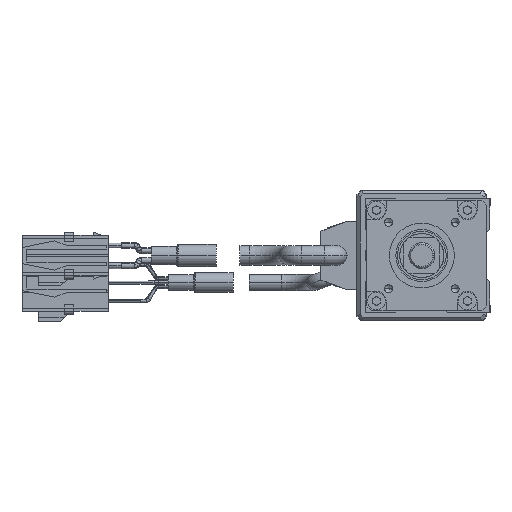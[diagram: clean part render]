
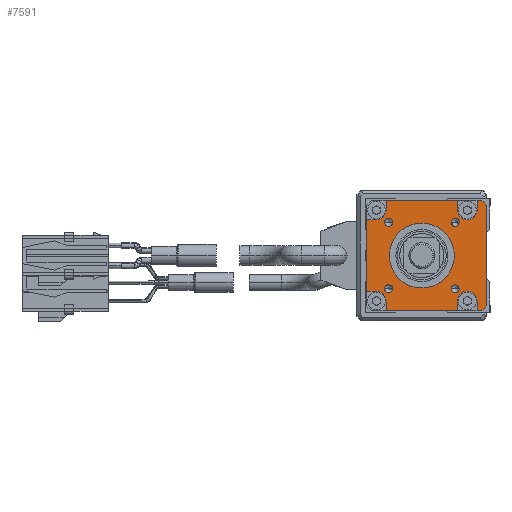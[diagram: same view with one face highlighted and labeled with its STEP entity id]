
A CAD part, left-side view. The second image highlights one B-rep face of the part: STEP entity #7591.
In plain terms, the highlighted planar face has unit normal (-1, 0, 0).
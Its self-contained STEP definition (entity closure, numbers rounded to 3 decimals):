
#1363=DIRECTION('',(0.,1.,0.));
#1364=VECTOR('',#1363,22.);
#1365=CARTESIAN_POINT('',(-227.5,10.,-17.));
#1366=LINE('',#1365,#1364);
#1371=DIRECTION('',(0.,1.,0.));
#1372=VECTOR('',#1371,1.5);
#1373=CARTESIAN_POINT('',(-227.5,2.5,-17.));
#1374=LINE('',#1373,#1372);
#1395=DIRECTION('',(0.,0.,1.));
#1396=VECTOR('',#1395,22.);
#1397=CARTESIAN_POINT('',(-227.5,38.,-11.));
#1398=LINE('',#1397,#1396);
#1419=DIRECTION('',(0.,-1.,0.));
#1420=VECTOR('',#1419,1.5);
#1421=CARTESIAN_POINT('',(-227.5,4.,17.));
#1422=LINE('',#1421,#1420);
#1423=DIRECTION('',(0.,-1.,0.));
#1424=VECTOR('',#1423,22.);
#1425=CARTESIAN_POINT('',(-227.5,32.,17.));
#1426=LINE('',#1425,#1424);
#1439=DIRECTION('',(0.,0.,-1.));
#1440=VECTOR('',#1439,31.);
#1441=CARTESIAN_POINT('',(-227.5,1.,15.5));
#1442=LINE('',#1441,#1440);
#1915=DIRECTION('',(0.,0.707,-0.707));
#1916=VECTOR('',#1915,2.121);
#1917=CARTESIAN_POINT('',(-227.5,1.,-15.5));
#1918=LINE('',#1917,#1916);
#1919=CARTESIAN_POINT('',(-227.5,7.,-14.));
#1920=DIRECTION('',(-1.,0.,0.));
#1921=DIRECTION('',(0.,-1.,0.));
#1922=AXIS2_PLACEMENT_3D('',#1919,#1920,#1921);
#1924=CARTESIAN_POINT('',(-227.5,35.,-14.));
#1925=DIRECTION('',(-1.,0.,0.));
#1926=DIRECTION('',(0.,-1.,0.));
#1927=AXIS2_PLACEMENT_3D('',#1924,#1925,#1926);
#1929=CARTESIAN_POINT('',(-227.5,35.,14.));
#1930=DIRECTION('',(-1.,0.,0.));
#1931=DIRECTION('',(0.,0.,-1.));
#1932=AXIS2_PLACEMENT_3D('',#1929,#1930,#1931);
#1934=CARTESIAN_POINT('',(-227.5,7.,14.));
#1935=DIRECTION('',(-1.,0.,0.));
#1936=DIRECTION('',(0.,1.,0.));
#1937=AXIS2_PLACEMENT_3D('',#1934,#1935,#1936);
#1939=DIRECTION('',(0.,-0.707,-0.707));
#1940=VECTOR('',#1939,2.121);
#1941=CARTESIAN_POINT('',(-227.5,2.5,17.));
#1942=LINE('',#1941,#1940);
#1943=CARTESIAN_POINT('',(-227.5,31.253,-10.253));
#1944=DIRECTION('',(-1.,0.,0.));
#1945=DIRECTION('',(0.,1.,0.));
#1946=AXIS2_PLACEMENT_3D('',#1943,#1944,#1945);
#1948=CARTESIAN_POINT('',(-227.5,31.253,-10.253));
#1949=DIRECTION('',(-1.,0.,0.));
#1950=DIRECTION('',(0.,-1.,0.));
#1951=AXIS2_PLACEMENT_3D('',#1948,#1949,#1950);
#1953=CARTESIAN_POINT('',(-227.5,10.747,-10.253));
#1954=DIRECTION('',(-1.,0.,0.));
#1955=DIRECTION('',(0.,1.,0.));
#1956=AXIS2_PLACEMENT_3D('',#1953,#1954,#1955);
#1958=CARTESIAN_POINT('',(-227.5,10.747,-10.253));
#1959=DIRECTION('',(-1.,0.,0.));
#1960=DIRECTION('',(0.,-1.,0.));
#1961=AXIS2_PLACEMENT_3D('',#1958,#1959,#1960);
#1963=CARTESIAN_POINT('',(-227.5,10.747,10.253));
#1964=DIRECTION('',(-1.,0.,0.));
#1965=DIRECTION('',(0.,1.,0.));
#1966=AXIS2_PLACEMENT_3D('',#1963,#1964,#1965);
#1968=CARTESIAN_POINT('',(-227.5,10.747,10.253));
#1969=DIRECTION('',(-1.,0.,0.));
#1970=DIRECTION('',(0.,-1.,0.));
#1971=AXIS2_PLACEMENT_3D('',#1968,#1969,#1970);
#1973=CARTESIAN_POINT('',(-227.5,31.253,10.253));
#1974=DIRECTION('',(-1.,0.,0.));
#1975=DIRECTION('',(0.,1.,0.));
#1976=AXIS2_PLACEMENT_3D('',#1973,#1974,#1975);
#1978=CARTESIAN_POINT('',(-227.5,31.253,10.253));
#1979=DIRECTION('',(-1.,0.,0.));
#1980=DIRECTION('',(0.,-1.,0.));
#1981=AXIS2_PLACEMENT_3D('',#1978,#1979,#1980);
#1983=CARTESIAN_POINT('',(-227.5,21.,0.));
#1984=DIRECTION('',(-1.,0.,0.));
#1985=DIRECTION('',(0.,-1.,0.));
#1986=AXIS2_PLACEMENT_3D('',#1983,#1984,#1985);
#1988=CARTESIAN_POINT('',(-227.5,21.,0.));
#1989=DIRECTION('',(-1.,0.,0.));
#1990=DIRECTION('',(0.,1.,0.));
#1991=AXIS2_PLACEMENT_3D('',#1988,#1989,#1990);
#1993=DIRECTION('',(0.,0.,-1.));
#1994=VECTOR('',#1993,3.);
#1995=CARTESIAN_POINT('',(-227.5,4.,-14.));
#1996=LINE('',#1995,#1994);
#2020=DIRECTION('',(0.,0.,1.));
#2021=VECTOR('',#2020,3.);
#2022=CARTESIAN_POINT('',(-227.5,10.,-17.));
#2023=LINE('',#2022,#2021);
#2130=DIRECTION('',(0.,0.,-1.));
#2131=VECTOR('',#2130,3.);
#2132=CARTESIAN_POINT('',(-227.5,32.,-14.));
#2133=LINE('',#2132,#2131);
#2161=DIRECTION('',(0.,-1.,0.));
#2162=VECTOR('',#2161,3.);
#2163=CARTESIAN_POINT('',(-227.5,38.,-11.));
#2164=LINE('',#2163,#2162);
#2271=DIRECTION('',(0.,1.,0.));
#2272=VECTOR('',#2271,3.);
#2273=CARTESIAN_POINT('',(-227.5,35.,11.));
#2274=LINE('',#2273,#2272);
#2306=DIRECTION('',(0.,0.,-1.));
#2307=VECTOR('',#2306,3.);
#2308=CARTESIAN_POINT('',(-227.5,32.,17.));
#2309=LINE('',#2308,#2307);
#2416=DIRECTION('',(0.,0.,1.));
#2417=VECTOR('',#2416,3.);
#2418=CARTESIAN_POINT('',(-227.5,10.,14.));
#2419=LINE('',#2418,#2417);
#2447=DIRECTION('',(0.,0.,-1.));
#2448=VECTOR('',#2447,3.);
#2449=CARTESIAN_POINT('',(-227.5,4.,17.));
#2450=LINE('',#2449,#2448);
#4119=CARTESIAN_POINT('',(-227.5,11.,0.));
#4120=CARTESIAN_POINT('',(-227.5,31.,0.));
#4121=VERTEX_POINT('',#4119);
#4122=VERTEX_POINT('',#4120);
#4123=CARTESIAN_POINT('',(-227.5,1.,-15.5));
#4124=CARTESIAN_POINT('',(-227.5,2.5,-17.));
#4125=VERTEX_POINT('',#4123);
#4126=VERTEX_POINT('',#4124);
#4127=CARTESIAN_POINT('',(-227.5,1.,15.5));
#4128=VERTEX_POINT('',#4127);
#4129=CARTESIAN_POINT('',(-227.5,2.5,17.));
#4130=VERTEX_POINT('',#4129);
#4131=CARTESIAN_POINT('',(-227.5,4.,17.));
#4132=VERTEX_POINT('',#4131);
#4133=CARTESIAN_POINT('',(-227.5,4.,14.));
#4134=VERTEX_POINT('',#4133);
#4135=CARTESIAN_POINT('',(-227.5,10.,14.));
#4136=VERTEX_POINT('',#4135);
#4137=CARTESIAN_POINT('',(-227.5,10.,17.));
#4138=VERTEX_POINT('',#4137);
#4139=CARTESIAN_POINT('',(-227.5,32.,17.));
#4140=VERTEX_POINT('',#4139);
#4141=CARTESIAN_POINT('',(-227.5,32.,14.));
#4142=VERTEX_POINT('',#4141);
#4143=CARTESIAN_POINT('',(-227.5,35.,11.));
#4144=VERTEX_POINT('',#4143);
#4145=CARTESIAN_POINT('',(-227.5,38.,11.));
#4146=VERTEX_POINT('',#4145);
#4147=CARTESIAN_POINT('',(-227.5,38.,-11.));
#4148=VERTEX_POINT('',#4147);
#4149=CARTESIAN_POINT('',(-227.5,35.,-11.));
#4150=VERTEX_POINT('',#4149);
#4151=CARTESIAN_POINT('',(-227.5,32.,-14.));
#4152=VERTEX_POINT('',#4151);
#4153=CARTESIAN_POINT('',(-227.5,32.,-17.));
#4154=VERTEX_POINT('',#4153);
#4155=CARTESIAN_POINT('',(-227.5,10.,-17.));
#4156=VERTEX_POINT('',#4155);
#4157=CARTESIAN_POINT('',(-227.5,10.,-14.));
#4158=VERTEX_POINT('',#4157);
#4159=CARTESIAN_POINT('',(-227.5,4.,-14.));
#4160=VERTEX_POINT('',#4159);
#4161=CARTESIAN_POINT('',(-227.5,4.,-17.));
#4162=VERTEX_POINT('',#4161);
#4163=CARTESIAN_POINT('',(-227.5,32.503,-10.253));
#4164=CARTESIAN_POINT('',(-227.5,30.003,-10.253));
#4165=VERTEX_POINT('',#4163);
#4166=VERTEX_POINT('',#4164);
#4167=CARTESIAN_POINT('',(-227.5,11.997,-10.253));
#4168=CARTESIAN_POINT('',(-227.5,9.497,-10.253));
#4169=VERTEX_POINT('',#4167);
#4170=VERTEX_POINT('',#4168);
#4171=CARTESIAN_POINT('',(-227.5,11.997,10.253));
#4172=CARTESIAN_POINT('',(-227.5,9.497,10.253));
#4173=VERTEX_POINT('',#4171);
#4174=VERTEX_POINT('',#4172);
#4175=CARTESIAN_POINT('',(-227.5,32.503,10.253));
#4176=CARTESIAN_POINT('',(-227.5,30.003,10.253));
#4177=VERTEX_POINT('',#4175);
#4178=VERTEX_POINT('',#4176);
#7522=CARTESIAN_POINT('',(-227.5,19.5,0.));
#7523=DIRECTION('',(1.,0.,0.));
#7524=DIRECTION('',(0.,0.,-1.));
#7525=AXIS2_PLACEMENT_3D('',#7522,#7523,#7524);
#7526=PLANE('',#7525);
#7527=ORIENTED_EDGE('',*,*,#6635,.T.);
#7528=ORIENTED_EDGE('',*,*,#6664,.T.);
#7530=ORIENTED_EDGE('',*,*,#7529,.F.);
#7532=ORIENTED_EDGE('',*,*,#7531,.T.);
#7534=ORIENTED_EDGE('',*,*,#7533,.F.);
#7535=ORIENTED_EDGE('',*,*,#6656,.T.);
#7537=ORIENTED_EDGE('',*,*,#7536,.F.);
#7539=ORIENTED_EDGE('',*,*,#7538,.T.);
#7541=ORIENTED_EDGE('',*,*,#7540,.F.);
#7542=ORIENTED_EDGE('',*,*,#6698,.T.);
#7544=ORIENTED_EDGE('',*,*,#7543,.F.);
#7546=ORIENTED_EDGE('',*,*,#7545,.T.);
#7548=ORIENTED_EDGE('',*,*,#7547,.F.);
#7549=ORIENTED_EDGE('',*,*,#6740,.T.);
#7551=ORIENTED_EDGE('',*,*,#7550,.F.);
#7553=ORIENTED_EDGE('',*,*,#7552,.T.);
#7555=ORIENTED_EDGE('',*,*,#7554,.F.);
#7556=ORIENTED_EDGE('',*,*,#6732,.T.);
#7557=ORIENTED_EDGE('',*,*,#6758,.T.);
#7558=ORIENTED_EDGE('',*,*,#6773,.T.);
#7559=EDGE_LOOP('',(#7527,#7528,#7530,#7532,#7534,#7535,#7537,#7539,#7541,#7542,
#7544,#7546,#7548,#7549,#7551,#7553,#7555,#7556,#7557,#7558));
#7560=FACE_OUTER_BOUND('',#7559,.F.);
#7562=ORIENTED_EDGE('',*,*,#7561,.T.);
#7564=ORIENTED_EDGE('',*,*,#7563,.T.);
#7565=EDGE_LOOP('',(#7562,#7564));
#7566=FACE_BOUND('',#7565,.F.);
#7568=ORIENTED_EDGE('',*,*,#7567,.T.);
#7570=ORIENTED_EDGE('',*,*,#7569,.T.);
#7571=EDGE_LOOP('',(#7568,#7570));
#7572=FACE_BOUND('',#7571,.F.);
#7574=ORIENTED_EDGE('',*,*,#7573,.T.);
#7576=ORIENTED_EDGE('',*,*,#7575,.T.);
#7577=EDGE_LOOP('',(#7574,#7576));
#7578=FACE_BOUND('',#7577,.F.);
#7580=ORIENTED_EDGE('',*,*,#7579,.T.);
#7582=ORIENTED_EDGE('',*,*,#7581,.T.);
#7583=EDGE_LOOP('',(#7580,#7582));
#7584=FACE_BOUND('',#7583,.F.);
#7586=ORIENTED_EDGE('',*,*,#7585,.T.);
#7588=ORIENTED_EDGE('',*,*,#7587,.T.);
#7589=EDGE_LOOP('',(#7586,#7588));
#7590=FACE_BOUND('',#7589,.F.);
#7591=ADVANCED_FACE('',(#7560,#7566,#7572,#7578,#7584,#7590),#7526,.F.);
#1923=CIRCLE('',#1922,3.);
#1928=CIRCLE('',#1927,3.);
#1933=CIRCLE('',#1932,3.);
#1938=CIRCLE('',#1937,3.);
#1947=CIRCLE('',#1946,1.25);
#1952=CIRCLE('',#1951,1.25);
#1957=CIRCLE('',#1956,1.25);
#1962=CIRCLE('',#1961,1.25);
#1967=CIRCLE('',#1966,1.25);
#1972=CIRCLE('',#1971,1.25);
#1977=CIRCLE('',#1976,1.25);
#1982=CIRCLE('',#1981,1.25);
#1987=CIRCLE('',#1986,10.);
#1992=CIRCLE('',#1991,10.);
#6635=EDGE_CURVE('',#4125,#4126,#1918,.T.);
#6656=EDGE_CURVE('',#4156,#4154,#1366,.T.);
#6664=EDGE_CURVE('',#4126,#4162,#1374,.T.);
#6698=EDGE_CURVE('',#4148,#4146,#1398,.T.);
#6732=EDGE_CURVE('',#4132,#4130,#1422,.T.);
#6740=EDGE_CURVE('',#4140,#4138,#1426,.T.);
#6758=EDGE_CURVE('',#4130,#4128,#1942,.T.);
#6773=EDGE_CURVE('',#4128,#4125,#1442,.T.);
#7529=EDGE_CURVE('',#4160,#4162,#1996,.T.);
#7531=EDGE_CURVE('',#4160,#4158,#1923,.T.);
#7533=EDGE_CURVE('',#4156,#4158,#2023,.T.);
#7536=EDGE_CURVE('',#4152,#4154,#2133,.T.);
#7538=EDGE_CURVE('',#4152,#4150,#1928,.T.);
#7540=EDGE_CURVE('',#4148,#4150,#2164,.T.);
#7543=EDGE_CURVE('',#4144,#4146,#2274,.T.);
#7545=EDGE_CURVE('',#4144,#4142,#1933,.T.);
#7547=EDGE_CURVE('',#4140,#4142,#2309,.T.);
#7550=EDGE_CURVE('',#4136,#4138,#2419,.T.);
#7552=EDGE_CURVE('',#4136,#4134,#1938,.T.);
#7554=EDGE_CURVE('',#4132,#4134,#2450,.T.);
#7561=EDGE_CURVE('',#4165,#4166,#1947,.T.);
#7563=EDGE_CURVE('',#4166,#4165,#1952,.T.);
#7567=EDGE_CURVE('',#4169,#4170,#1957,.T.);
#7569=EDGE_CURVE('',#4170,#4169,#1962,.T.);
#7573=EDGE_CURVE('',#4173,#4174,#1967,.T.);
#7575=EDGE_CURVE('',#4174,#4173,#1972,.T.);
#7579=EDGE_CURVE('',#4177,#4178,#1977,.T.);
#7581=EDGE_CURVE('',#4178,#4177,#1982,.T.);
#7585=EDGE_CURVE('',#4121,#4122,#1987,.T.);
#7587=EDGE_CURVE('',#4122,#4121,#1992,.T.);
